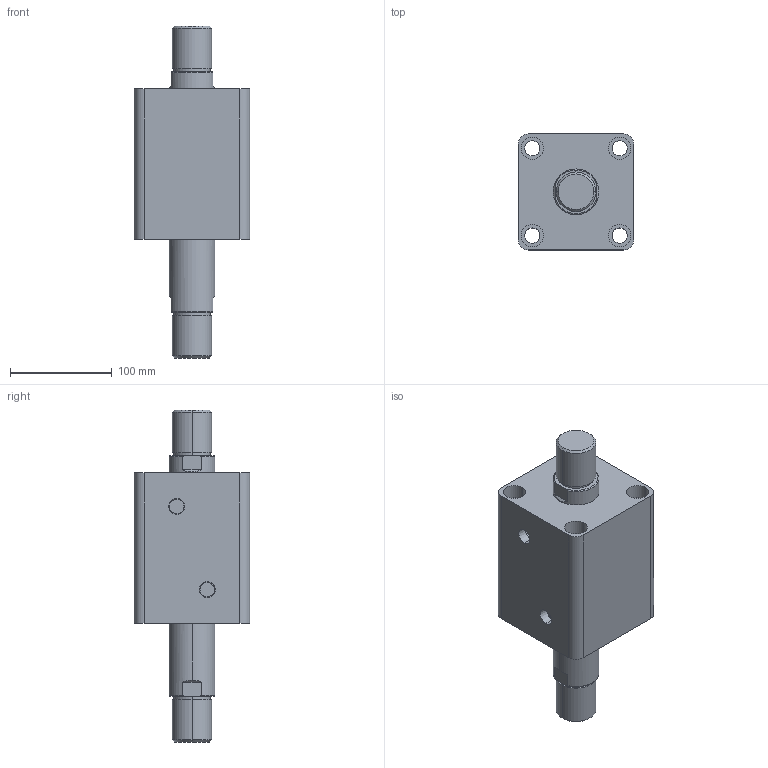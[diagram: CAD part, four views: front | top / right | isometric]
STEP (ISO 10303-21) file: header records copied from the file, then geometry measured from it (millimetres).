
FILE_DESCRIPTION (( 'STEP AP203' ), '1' );
FILE_NAME ('HTB-SW80-55W.STEP', '2019-10-07T10:23:51', ( '微软用户' ), ( '微软中国' ), 'SwSTEP 2.0', 'SolidWorks 2012', '' );
FILE_SCHEMA (( 'CONFIG_CONTROL_DESIGN' ));
Length unit declared in the file: millimetre
Products named in the file (3): HTB-SW80-55W; HTB-SW80-55W活塞杆; HTB-SW80-55掛极
Assembly tree (2 placements, depth 2):
  HTB-SW80-55W
    HTB-SW80-55掛极
    HTB-SW80-55W活塞杆
Bounding box: 114 x 114 x 327 mm (x, y, z)
Volume: 1834543.9 mm3; surface area: 213247.8 mm2
Topology: 2 solids, 2 shells, 108 faces, 240 edges, 156 vertices
Faces by surface type: cylinder 52, plane 36, torus 12, cone 8
Entity records: 3449 total; most frequent: CARTESIAN_POINT 629, DIRECTION 586, ORIENTED_EDGE 480, AXIS2_PLACEMENT_3D 249, EDGE_CURVE 240, VERTEX_POINT 156, EDGE_LOOP 138, CIRCLE 136
